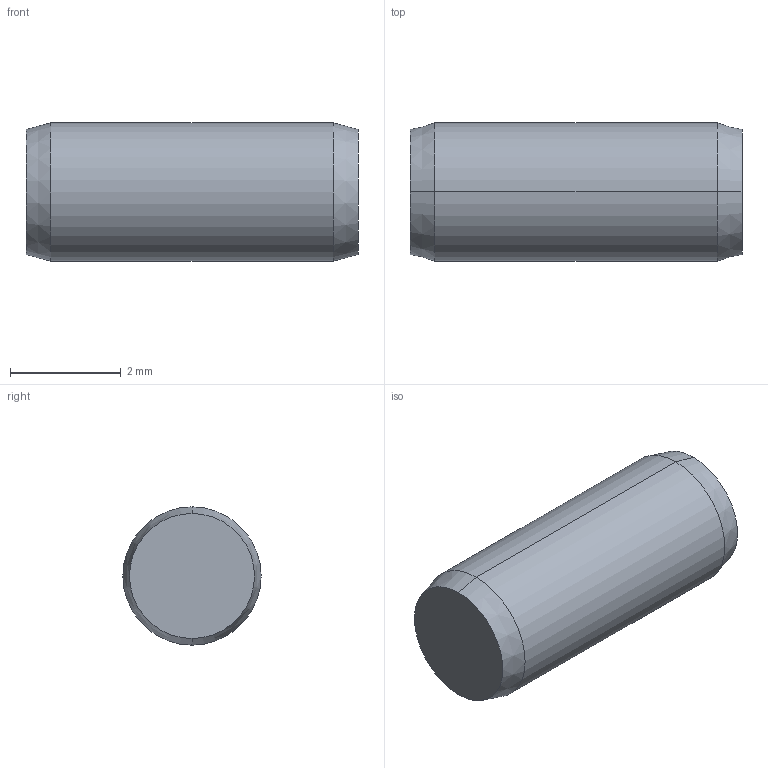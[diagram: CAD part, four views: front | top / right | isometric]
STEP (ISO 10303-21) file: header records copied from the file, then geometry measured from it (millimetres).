
FILE_DESCRIPTION (( 'STEP AP203' ), '1' );
FILE_NAME ('P1206.025-006.step', '2017-06-14T07:59:20', ( 'User' ), ( '' ), 'SwSTEP 2.0', 'SolidWorks 2009', '' );
FILE_SCHEMA (( 'CONFIG_CONTROL_DESIGN' ));
Length unit declared in the file: millimetre
Products named in the file (1): P1206.025-006
Bounding box: 6 x 2.5 x 2.5 mm (x, y, z)
Volume: 29 mm3; surface area: 55 mm2
Topology: 1 solids, 1 shells, 8 faces, 14 edges, 8 vertices
Faces by surface type: cone 4, cylinder 2, plane 2
Entity records: 271 total; most frequent: DIRECTION 40, CARTESIAN_POINT 31, ORIENTED_EDGE 28, AXIS2_PLACEMENT_3D 17, EDGE_CURVE 14, ADVANCED_FACE 8, EDGE_LOOP 8, FACE_OUTER_BOUND 8
